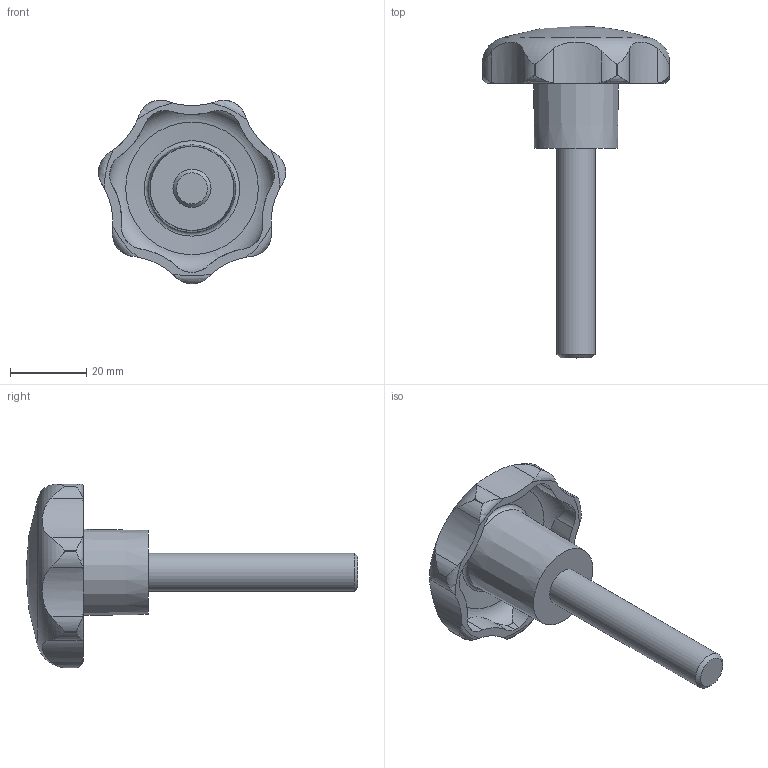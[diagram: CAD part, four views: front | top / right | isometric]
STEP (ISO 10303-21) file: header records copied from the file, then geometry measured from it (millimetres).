
FILE_DESCRIPTION( ( 'STEP AP203' ), '1' );
FILE_NAME( 'C:/Temp/Ganter_Step_05_03_2020/data/2_2/gn_6336_4/gn_6336_4_st/Star knob GN 6336.4-ST-50-M10-55.stp', '2020-03-05T12:07:39', ( 'License CC BY-ND 4.0' ), ( 'CADENAS' ), ' ', 'PARTsolutions', ' ' );
FILE_SCHEMA( ( 'CONFIG_CONTROL_DESIGN' ) );
Length unit declared in the file: millimetre
Products named in the file (1): _Star knob GN 6336.4-ST-50-M10-55
Bounding box: 49.04 x 87 x 48.12 mm (x, y, z)
Volume: 25467.6 mm3; surface area: 9177.2 mm2
Topology: 1 solids, 1 shells, 74 faces, 209 edges, 138 vertices
Faces by surface type: cylinder 50, torus 10, cone 10, plane 3, sphere 1
Full cylindrical faces by diameter (mm): 10 x1
Entity records: 3234 total; most frequent: CARTESIAN_POINT 1425, ORIENTED_EDGE 394, DIRECTION 334, EDGE_CURVE 197, AXIS2_PLACEMENT_3D 146, VERTEX_POINT 135, B_SPLINE_CURVE_WITH_KNOTS 84, EDGE_LOOP 83
